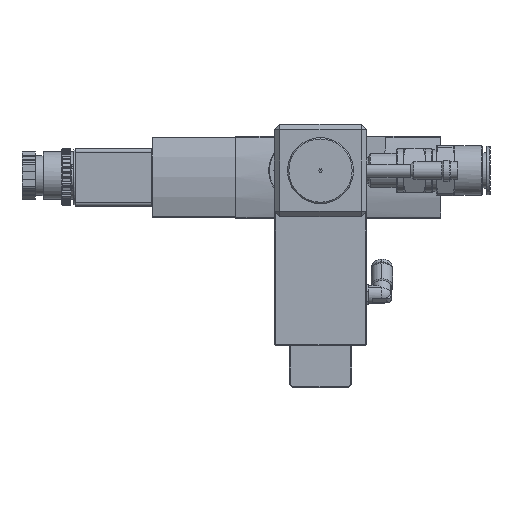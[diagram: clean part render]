
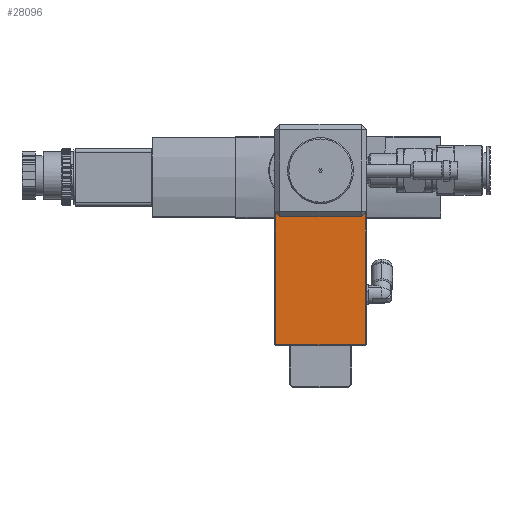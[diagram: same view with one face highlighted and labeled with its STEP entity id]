
A CAD part, front view. The second image highlights one B-rep face of the part: STEP entity #28096.
In plain terms, the highlighted planar face has unit normal (0, -1, 0).
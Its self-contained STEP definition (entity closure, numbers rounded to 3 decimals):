
#814 = LINE ( 'NONE', #63884, #61265 ) ;
#823 = CARTESIAN_POINT ( 'NONE',  ( 17., 20., -15.293 ) ) ;
#1143 = DIRECTION ( 'NONE',  ( 0., 0., 1. ) ) ;
#3842 = DIRECTION ( 'NONE',  ( -0.707, 0., 0.707 ) ) ;
#4463 = CARTESIAN_POINT ( 'NONE',  ( 15.293, 20., -17. ) ) ;
#7448 = CARTESIAN_POINT ( 'NONE',  ( -15.5, 20., -17. ) ) ;
#8475 = EDGE_CURVE ( 'NONE', #63920, #10686, #11902, .T. ) ;
#9176 = EDGE_CURVE ( 'NONE', #24700, #60464, #51828, .T. ) ;
#10033 = ORIENTED_EDGE ( 'NONE', *, *, #8475, .T. ) ;
#10686 = VERTEX_POINT ( 'NONE', #4463 ) ;
#10965 = LINE ( 'NONE', #45001, #16730 ) ;
#11256 = CARTESIAN_POINT ( 'NONE',  ( -15.293, 20., -17. ) ) ;
#11902 = LINE ( 'NONE', #36510, #57636 ) ;
#12889 = LINE ( 'NONE', #52695, #21899 ) ;
#16141 = CARTESIAN_POINT ( 'NONE',  ( 17., 20., -66. ) ) ;
#16730 = VECTOR ( 'NONE', #55296, 1000. ) ;
#20209 = VECTOR ( 'NONE', #26886, 1000. ) ;
#21899 = VECTOR ( 'NONE', #3842, 1000. ) ;
#21988 = VERTEX_POINT ( 'NONE', #11256 ) ;
#22371 = CARTESIAN_POINT ( 'NONE',  ( -17., 20., -15.293 ) ) ;
#24700 = VERTEX_POINT ( 'NONE', #22371 ) ;
#25154 = EDGE_CURVE ( 'NONE', #21988, #24700, #12889, .T. ) ;
#26785 = ORIENTED_EDGE ( 'NONE', *, *, #9176, .T. ) ;
#26886 = DIRECTION ( 'NONE',  ( 0., 0., -1. ) ) ;
#28096 = ADVANCED_FACE ( 'NONE', ( #36605 ), #42761, .F. ) ;
#31275 = EDGE_LOOP ( 'NONE', ( #41201, #63608, #26785, #43079, #59934, #10033 ) ) ;
#31505 = EDGE_CURVE ( 'NONE', #60464, #44314, #10965, .T. ) ;
#31742 = DIRECTION ( 'NONE',  ( 0., 0., 1. ) ) ;
#33071 = VECTOR ( 'NONE', #37529, 1000. ) ;
#34065 = CARTESIAN_POINT ( 'NONE',  ( -17., 20., -66. ) ) ;
#36510 = CARTESIAN_POINT ( 'NONE',  ( 16.146, 20., -16.146 ) ) ;
#36605 = FACE_OUTER_BOUND ( 'NONE', #31275, .T. ) ;
#37529 = DIRECTION ( 'NONE',  ( -1., 0., 0. ) ) ;
#39850 = EDGE_CURVE ( 'NONE', #10686, #21988, #56607, .T. ) ;
#41201 = ORIENTED_EDGE ( 'NONE', *, *, #39850, .T. ) ;
#42761 = PLANE ( 'NONE',  #47651 ) ;
#43079 = ORIENTED_EDGE ( 'NONE', *, *, #31505, .T. ) ;
#44314 = VERTEX_POINT ( 'NONE', #16141 ) ;
#44542 = EDGE_CURVE ( 'NONE', #44314, #63920, #814, .T. ) ;
#45001 = CARTESIAN_POINT ( 'NONE',  ( 0., 20., -66. ) ) ;
#46008 = CARTESIAN_POINT ( 'NONE',  ( -17., 20., -24.5 ) ) ;
#46247 = DIRECTION ( 'NONE',  ( -0.707, 0., -0.707 ) ) ;
#47651 = AXIS2_PLACEMENT_3D ( 'NONE', #61173, #62447, #31742 ) ;
#51828 = LINE ( 'NONE', #46008, #20209 ) ;
#52695 = CARTESIAN_POINT ( 'NONE',  ( -16.146, 20., -16.146 ) ) ;
#55296 = DIRECTION ( 'NONE',  ( 1., 0., 0. ) ) ;
#56607 = LINE ( 'NONE', #7448, #33071 ) ;
#57636 = VECTOR ( 'NONE', #46247, 1000. ) ;
#59934 = ORIENTED_EDGE ( 'NONE', *, *, #44542, .T. ) ;
#60464 = VERTEX_POINT ( 'NONE', #34065 ) ;
#61173 = CARTESIAN_POINT ( 'NONE',  ( 0., 20., -24.5 ) ) ;
#61265 = VECTOR ( 'NONE', #1143, 1000. ) ;
#62447 = DIRECTION ( 'NONE',  ( 0., 1., 0. ) ) ;
#63608 = ORIENTED_EDGE ( 'NONE', *, *, #25154, .T. ) ;
#63884 = CARTESIAN_POINT ( 'NONE',  ( 17., 20., -24.5 ) ) ;
#63920 = VERTEX_POINT ( 'NONE', #823 ) ;
